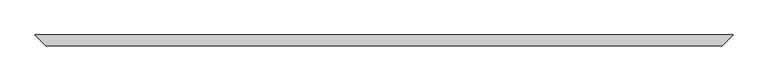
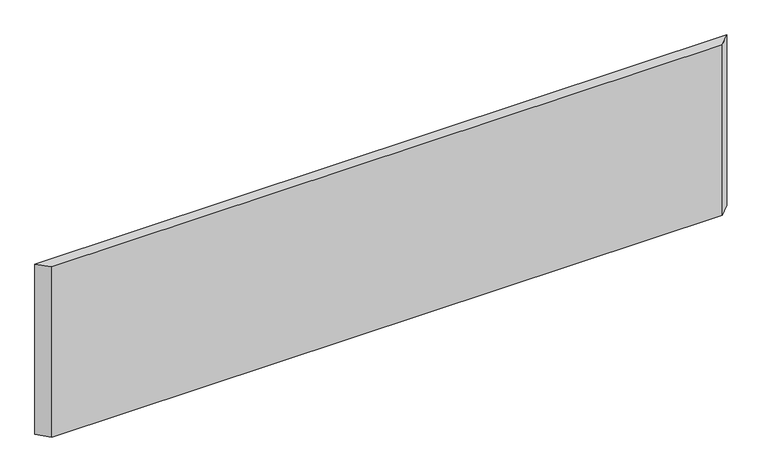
"""IFC4 building model written with IfcOpenShell, lengths in millimetres: proxy geometry, FOUNDATION^STANDARD CREDENZA_WEBSITE DETAIL-TOP."""

from ifc_helpers import new_model, si_unit, origin, origin_with_axes, place, context, project, spatial, polyline, outline, extrude, source, transform, mapped, element, save


def generic_models_82d56803(model_context):
    return source(origin(), model_context, "Body", "SweptSolid", [
        extrude(outline(polyline([(0.0, 889.0), (2438.4, 889.0), (2400.3, 850.9), (38.1, 850.9), (0.0, 889.0)])), origin_with_axes(), (0.0, 0.0, 1.0), 635.0),
    ])


if __name__ == "__main__":
    model = new_model("IFC4")
    model_context = context("Model", 3, world=origin())
    ifc_project = project(units=[si_unit("LENGTHUNIT", "METRE", prefix="MILLI")], contexts=[model_context])
    site = spatial("IfcSite", under=ifc_project)
    building = spatial("IfcBuilding", under=site)
    placement = place(None, origin())
    generic_models_shape = generic_models_82d56803(model_context)
    element("IfcBuildingElementProxy", 1, Name="FOUNDATION^STANDARD CREDENZA_WEBSITE DETAIL-TOP", ObjectType="FOUNDATION^STANDARD CREDENZA_WEBSITE DETAIL-TOP", at=placement, inside=building, context=model_context, shape_type="MappedRepresentation", body=[
        mapped(generic_models_shape, transform((0.0, 0.0, 0.0), x_axis=(1.0, 0.0, 0.0), y_axis=(0.0, 1.0, 0.0), z_axis=(0.0, 0.0, 1.0))),
    ])
    save(model, "model.ifc")
